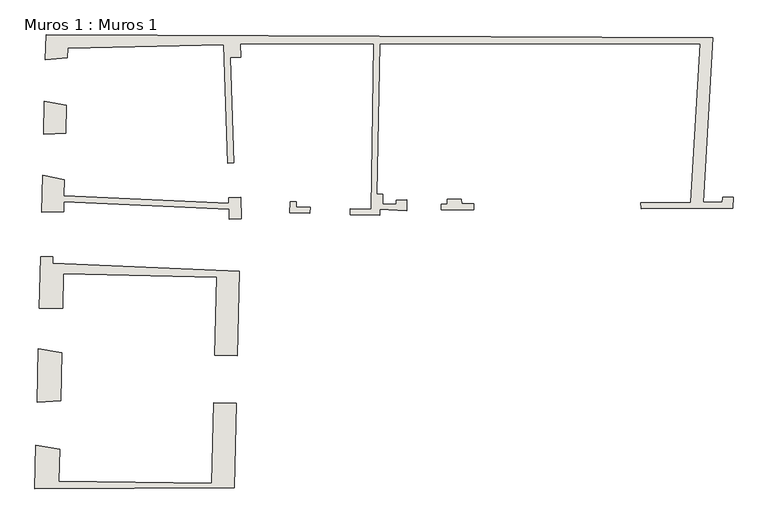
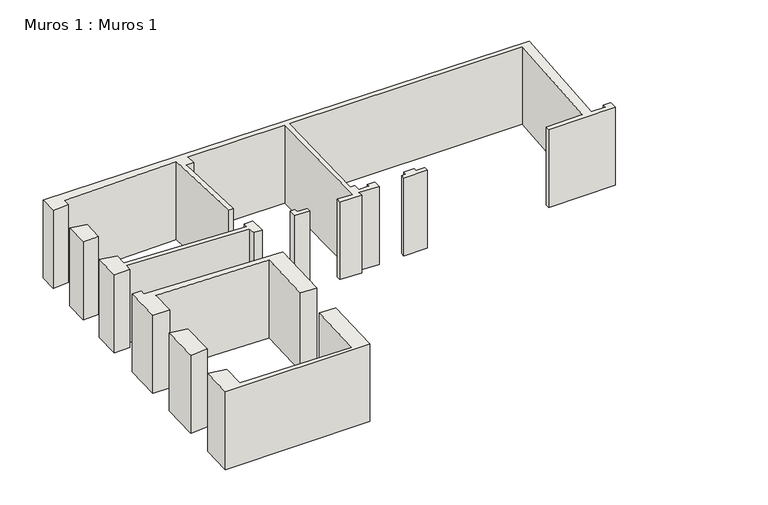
"""IFC4 building model written with IfcOpenShell, lengths in millimetres: wall geometry, Muros 1 : Muros 1."""

from ifc_helpers import new_model, si_unit, origin, origin_with_axes, place, context, project, spatial, polyline, outline, extrude, source, transform, mapped, element, save


def muros_1_muros_1_ea26e121(model_context):
    return source(origin(), model_context, "Body", "SweptSolid", [
        extrude(outline(polyline([(773.7056596, 9477.1283443), (756.7893339, 8791.3319354), (216.0906298, 8762.4895163), (236.472405, 9585.7021848), (773.7056596, 9477.1283443)])), origin_with_axes(), (0.0, 0.0, 1.0), 2800.0),
        extrude(outline(polyline([(726.8927321, 7640.951983), (718.6114662, 7243.5818475), (4794.4421844, 7059.1834792), (4789.3968286, 7197.2750883), (5089.9482141, 7207.4676108), (5096.1057711, 6675.7228114), (4807.6610083, 6669.3999248), (4800.7723108, 6907.9924654), (714.907522, 7093.4220765), (707.6047788, 6853.2043412), (168.5264063, 6841.3874121), (191.0313797, 7750.355302), (726.8927321, 7640.951983)])), origin_with_axes(), (0.0, 0.0, 1.0), 2800.0),
        extrude(outline(polyline([(110.0970895, 4469.0213486), (141.4283569, 5742.8187201), (441.3371319, 5735.4209641), (437.4411007, 5577.4738869), (5050.5969627, 5377.9819398), (4999.4665431, 3295.7064131), (4447.927801, 3301.7085269), (4497.4442571, 5228.3208511), (706.2771097, 5321.4132239), (687.0570653, 4469.0213486), (110.0970895, 4469.0213486)])), origin_with_axes(), (0.0, 0.0, 1.0), 2800.0),
        extrude(outline(polyline([(663.5539278, 3373.4495511), (635.4130453, 2178.7233012), (52.8263359, 2150.8479365), (85.1762534, 3462.3299709), (663.5539278, 3373.4495511)])), origin_with_axes(), (0.0, 0.0, 1.0), 2800.0),
        extrude(outline(polyline([(4919.2590447, 29.2774197), (-0.0024191, 9.1434656), (26.5434598, 1085.3268361), (608.5511563, 987.3541022), (590.6369266, 192.8739512), (4370.2295226, 137.462624), (4419.2389659, 2133.3618043), (4970.5949205, 2119.8232201), (4919.2590447, 29.2774197)])), origin_with_axes(), (0.0, 0.0, 1.0), 2800.0),
        extrude(outline(polyline([(10539.8103337, 7051.7389365), (10844.3217347, 7053.3848776), (10845.1369044, 6902.5724117), (10045.2306249, 6898.1303926), (10044.4329024, 7041.7820123), (10189.6255797, 7044.7003376), (10191.9584013, 7159.8603383), (10539.2157717, 7161.7373295), (10539.8103337, 7051.7389365)])), origin_with_axes(), (0.0, 0.0, 1.0), 2800.0),
        extrude(outline(polyline([(6793.3498128, 6808.449815), (6296.9873014, 6821.9794258), (6304.5771936, 7101.8765402), (6454.3964606, 7097.7928386), (6450.8542987, 6967.8411055), (6797.4369227, 6958.3941229), (6793.3498128, 6808.449815)])), origin_with_axes(), (0.0, 0.0, 1.0), 2800.0),
        extrude(outline(polyline([(276.6718664, 11220.5013177), (16746.625913, 11145.3896797), (16507.1426607, 7084.0168311), (16987.295149, 7086.6832018), (16989.7263267, 7206.698553), (17249.8089245, 7208.1428371), (17244.3387749, 6938.1082966), (14975.0732259, 6925.5066686), (14974.2391325, 7075.7078544), (16208.7614203, 7082.3806785), (16439.5076653, 11000.5819197), (8519.5092426, 11000.5819197), (8444.0125616, 7278.9874463), (8594.0870703, 7281.1464358), (8589.2263343, 7041.1956637), (8929.4346078, 7048.0337385), (8931.2573839, 7138.0152782), (9191.4166519, 7143.2443939), (9182.9488286, 6872.3178924), (8523.0374073, 6909.8776456), (8523.490345, 6761.290476), (7792.9785335, 6781.2024158), (7797.0656433, 6931.1467237), (8315.8894203, 6917.0048745), (8369.484095, 11002.755842), (5074.9441574, 11002.755842), (5082.3279072, 10666.1035913), (4822.4011881, 10660.4026526), (4914.6370241, 8057.0453524), (4760.7788975, 8051.827601), (4661.5806035, 10976.93126), (808.6174979, 10892.471941), (802.8559852, 10658.8973011), (261.4434951, 10603.861724), (276.6718664, 11220.5013177)])), origin_with_axes(), (0.0, 0.0, 1.0), 2800.0),
    ])


if __name__ == "__main__":
    model = new_model("IFC4")
    model_context = context("Model", 3, world=origin())
    ifc_project = project(units=[si_unit("LENGTHUNIT", "METRE", prefix="MILLI")], contexts=[model_context])
    site = spatial("IfcSite", under=ifc_project)
    building = spatial("IfcBuilding", under=site)
    placement = place(None, origin())
    muros_1_muros_1_shape = muros_1_muros_1_ea26e121(model_context)
    element("IfcWall", 1, ObjectType="Muros 1 : Muros 1", at=placement, inside=building, context=model_context, shape_type="MappedRepresentation", body=[
        mapped(muros_1_muros_1_shape, transform((0.0, 0.0, 0.0), x_axis=(1.0, 0.0, 0.0), y_axis=(0.0, 1.0, 0.0), z_axis=(0.0, 0.0, 1.0))),
    ])
    save(model, "model.ifc")
